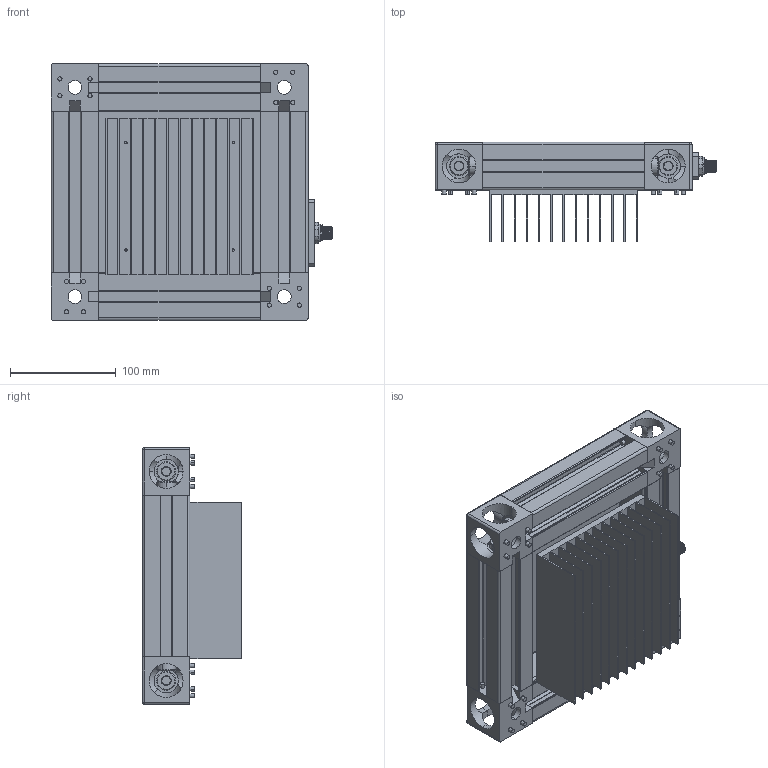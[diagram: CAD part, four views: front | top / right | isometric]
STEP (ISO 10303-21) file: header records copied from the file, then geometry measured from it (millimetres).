
FILE_DESCRIPTION (( 'STEP AP214' ), '1' );
FILE_NAME ('MOBL 150x150.STEP', '2015-05-14T12:24:02', ( '' ), ( '' ), 'SwSTEP 2.0', 'SolidWorks 2015', '' );
FILE_SCHEMA (( 'AUTOMOTIVE_DESIGN' ));
Length unit declared in the file: millimetre
Products named in the file (12): 93070A241_93070A241; MOBL 150x150; HOBL; Input Assembly; M12 Nut; Screw holder; Screws -- short_FB08.0-015; Input Mounting Plate_A; M12_Male; Lens_153x153; 4545-EXT01-R2_150; Bosch Gusset - 3 842 523 874
Assembly tree (26 placements, depth 3):
  MOBL 150x150
    93070A241_93070A241  x8
    Bosch Gusset - 3 842 523 874  x4
    4545-EXT01-R2_150  x4
    Lens_153x153
    Input Assembly
      M12_Male
      Input Mounting Plate_A
      Screws -- short_FB08.0-015  x2
      Screw holder  x2
      M12 Nut
    HOBL
Bounding box: 266.47 x 93.8 x 243 mm (x, y, z)
Volume: 918761.3 mm3; surface area: 698322.3 mm2
Topology: 25 solids, 26 shells, 2004 faces, 5402 edges, 3524 vertices
Faces by surface type: cylinder 1068, plane 686, cone 156, bspline 86, sphere 4, torus 4
Entity records: 47773 total; most frequent: CARTESIAN_POINT 26875, ORIENTED_EDGE 4022, DIRECTION 3558, EDGE_CURVE 2011, VERTEX_POINT 1319, AXIS2_PLACEMENT_3D 1269, LINE 1020, VECTOR 1020
